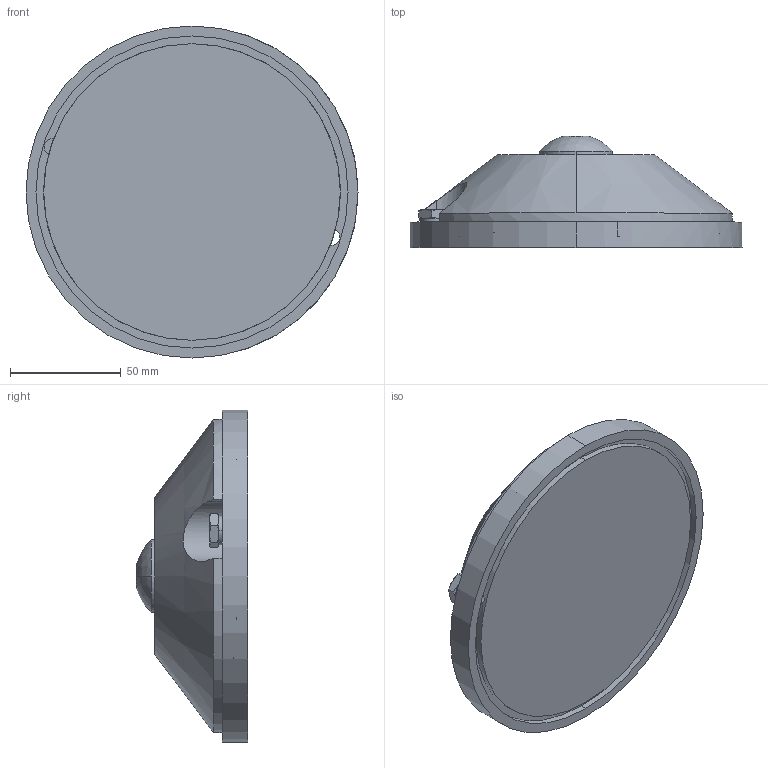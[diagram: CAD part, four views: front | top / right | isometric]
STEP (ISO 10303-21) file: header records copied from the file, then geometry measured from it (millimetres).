
FILE_DESCRIPTION (( 'STEP AP214' ), '1' );
FILE_NAME ('0019607 EZ-0300-150.STEP', '2022-02-28T13:19:06', ( '' ), ( '' ), 'SwSTEP 2.0', 'SolidWorks 2021', '' );
FILE_SCHEMA (( 'AUTOMOTIVE_DESIGN' ));
Length unit declared in the file: millimetre
Products named in the file (1): 0019607 EZ-0300-150
Bounding box: 150 x 50.3 x 150 mm (x, y, z)
Volume: 499677.1 mm3; surface area: 53911.8 mm2
Topology: 4 solids, 4 shells, 152 faces, 369 edges, 210 vertices
Faces by surface type: cylinder 68, cone 56, plane 26, sphere 2
Entity records: 6225 total; most frequent: CARTESIAN_POINT 1051, DIRECTION 766, ORIENTED_EDGE 670, EDGE_CURVE 335, AXIS2_PLACEMENT_3D 319, VERTEX_POINT 210, EDGE_LOOP 179, CIRCLE 166
